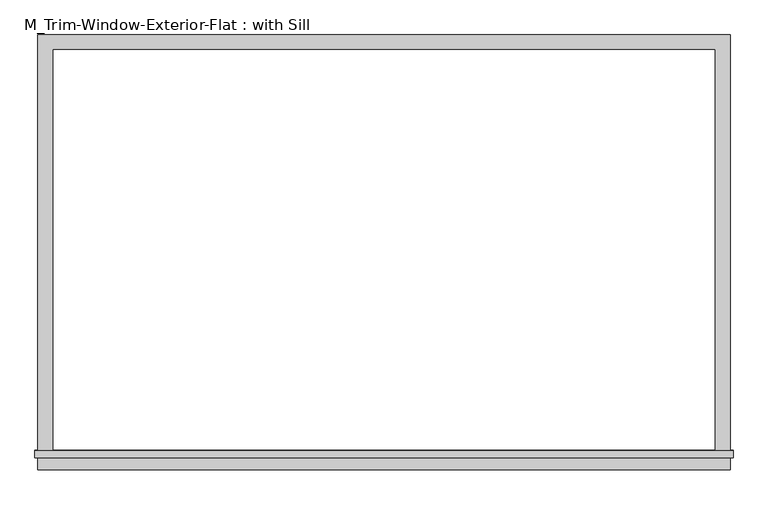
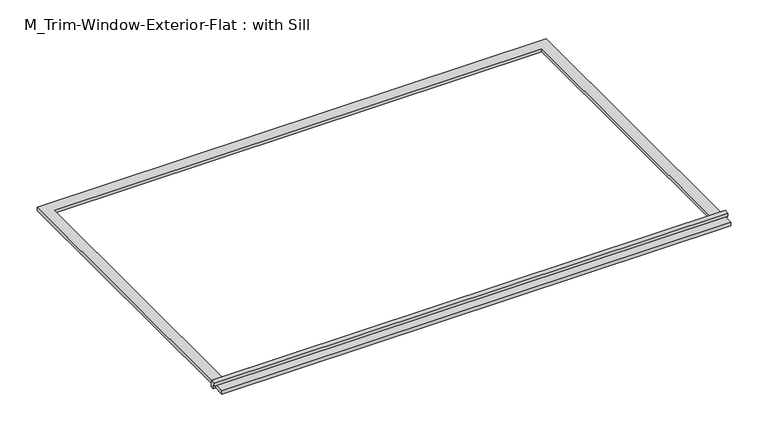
"""IFC4 building model written with IfcOpenShell, lengths in millimetres: proxy geometry, M_Trim-Window-Exterior-Flat : with Sill."""

from ifc_helpers import new_model, si_unit, frame, origin, origin_with_axes, place, context, project, spatial, polyline, outline, extrude, source, transform, mapped, element, save


def m_trim_window_exterior_flat_with_sill_ccc538f8(model_context):
    return source(origin(), model_context, "Body", "SweptSolid", [
        extrude(outline(polyline([(1424.3976563, -1670.4323709), (1424.3976563, -1730.4323709), (-1424.3976562, -1730.4323709), (-1424.3976562, -1670.4323709), (1424.3976563, -1670.4323709)])), origin_with_axes(), (0.0, 0.0, 1.0), 19.05),
        extrude(outline(polyline([(-1680.0, 38.1), (-1652.4580645, 38.1), (-1650.0, 19.05), (-1650.0, 0.0), (-1670.4323709, 0.0), (-1670.4323709, 19.05), (-1680.0, 19.05), (-1680.0, 38.1)])), frame((-1437.0976562, 0.0, 0.0), z_axis=(1.0, 0.0, 0.0), x_axis=(0.0, 1.0, 0.0)), (0.0, 0.0, 1.0), 2874.1953125),
        extrude(outline(polyline([(-1424.3976562, 60.0), (1424.3976563, 60.0), (1424.3976563, -1650.0), (1364.3976563, -1650.0), (1364.3976563, 0.0), (-1364.3976562, 0.0), (-1364.3976562, -1650.0), (-1424.3976562, -1650.0), (-1424.3976562, 60.0)])), origin_with_axes(), (0.0, 0.0, 1.0), 19.05),
    ])


if __name__ == "__main__":
    model = new_model("IFC4")
    model_context = context("Model", 3, world=origin())
    ifc_project = project(units=[si_unit("LENGTHUNIT", "METRE", prefix="MILLI")], contexts=[model_context])
    site = spatial("IfcSite", under=ifc_project)
    building = spatial("IfcBuilding", under=site)
    placement = place(None, origin())
    m_trim_window_exterior_flat_with_sill_shape = m_trim_window_exterior_flat_with_sill_ccc538f8(model_context)
    element("IfcBuildingElementProxy", 1, Name="M_Trim-Window-Exterior-Flat : with Sill", ObjectType="M_Trim-Window-Exterior-Flat : with Sill", at=placement, inside=building, context=model_context, shape_type="MappedRepresentation", body=[
        mapped(m_trim_window_exterior_flat_with_sill_shape, transform((0.0, 0.0, 0.0), x_axis=(1.0, 0.0, 0.0), y_axis=(0.0, 1.0, 0.0), z_axis=(0.0, 0.0, 1.0))),
    ])
    save(model, "model.ifc")
